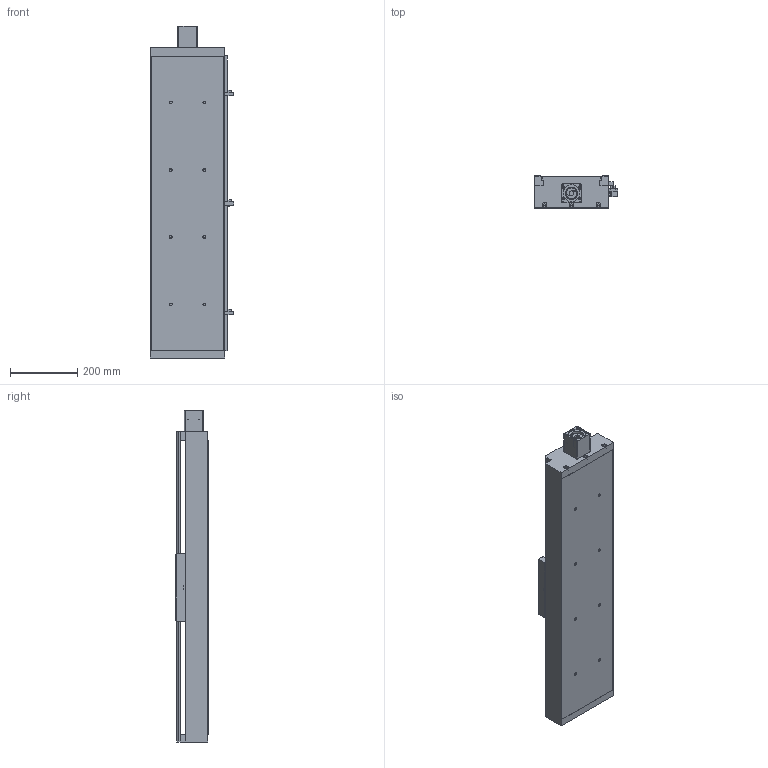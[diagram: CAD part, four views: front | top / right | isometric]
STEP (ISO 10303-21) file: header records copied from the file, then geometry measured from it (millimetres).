
FILE_DESCRIPTION((''),'2;1');
FILE_NAME('E:\libraries\UIA actuator library 2016\standard actuator\UIA220R20NDC\UIA220R20NDC ball screw 20\UIA220R20NDC-_ _ _-R20_ _ stp file, 01May16\UIA220R20NDC-650-R20_ _.stp','2016-04-29T15:25:33',('h029'),(''),'Autodesk Inventor 11','Autodesk Inventor 11','');
FILE_SCHEMA(('AUTOMOTIVE_DESIGN { 1 0 10303 214 1 1 1 1 }'));
Length unit declared in the file: millimetre
Products named in the file (10): UIA220R20NDC-650-R20_ _; UIA220R20NDC-body; 41-100 0010 CARRIAGE; sensor rail; Sensor Switch; motor mount M60; SOH-32C; SOH-32C-3; SOH-32C-1; SOH-32C-2
Assembly tree (9 placements, depth 3):
  UIA220R20NDC-650-R20_ _
    UIA220R20NDC-body
    41-100 0010 CARRIAGE
    sensor rail
    Sensor Switch
    motor mount M60
    SOH-32C
      SOH-32C-3
      SOH-32C-1
      SOH-32C-2
Bounding box: 246.5 x 96 x 986 mm (x, y, z)
Volume: 5915147.7 mm3; surface area: 1385463.6 mm2
Topology: 8 solids, 8 shells, 512 faces, 1366 edges, 898 vertices
Faces by surface type: plane 341, bspline 121, cylinder 48, cone 2
Full cylindrical faces by diameter (mm): 3.242 x2, 4.5 x2, 7 x4, 7.5 x2, 12 x2, 13.8 x3, 14 x4, 15 x1, 32 x3, 37 x1, 46.9 x1, 47.1 x1
Entity records: 16726 total; most frequent: CARTESIAN_POINT 4732, ORIENTED_EDGE 2330, DIRECTION 2281, EDGE_CURVE 1165, VECTOR 849, LINE 849, VERTEX_POINT 824, EDGE_LOOP 743
